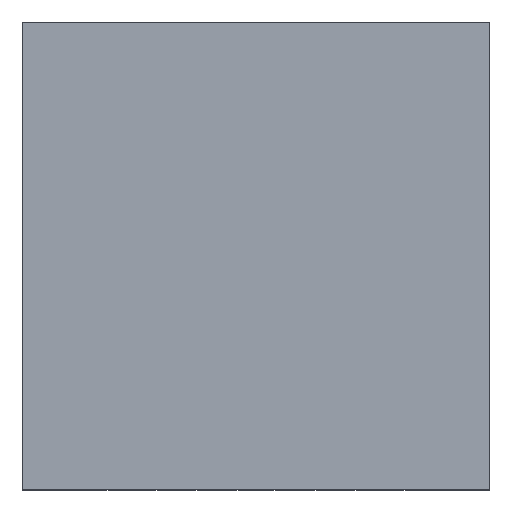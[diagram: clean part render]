
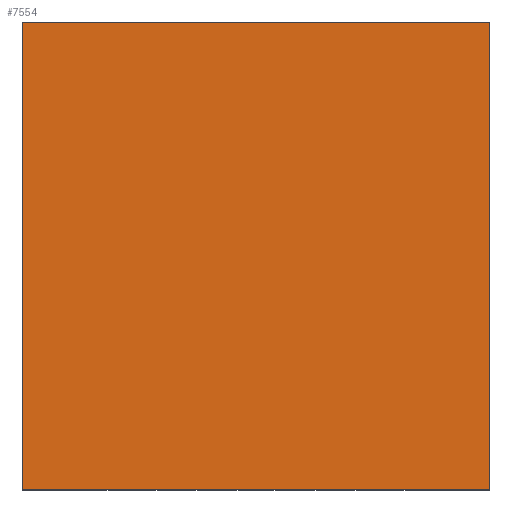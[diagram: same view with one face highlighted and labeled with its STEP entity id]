
A CAD part, top view. The second image highlights one B-rep face of the part: STEP entity #7554.
In plain terms, the highlighted planar face has unit normal (0, 0, 1).
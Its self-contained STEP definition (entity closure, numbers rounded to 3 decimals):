
#16 = CARTESIAN_POINT ( 'NONE',  ( 1.655, 0.048, 3.749 ) ) ;
#29 = DIRECTION ( 'NONE',  ( 0., 1., 0. ) ) ;
#113 = FACE_OUTER_BOUND ( 'NONE', #7426, .T. ) ;
#174 = VECTOR ( 'NONE', #29, 1000. ) ;
#816 = LINE ( 'NONE', #7795, #174 ) ;
#850 = CARTESIAN_POINT ( 'NONE',  ( 3.634, 4.048, 3.749 ) ) ;
#1232 = VERTEX_POINT ( 'NONE', #8860 ) ;
#1491 = DIRECTION ( 'NONE',  ( 1., 0., 0. ) ) ;
#1691 = EDGE_CURVE ( 'Defeatured_0_12+Defeatured_0_10+Defeatured_0_9+Defeatured_0_11', #1232, #7212, #8469, .T. ) ;
#1708 = LINE ( 'NONE', #4686, #2043 ) ;
#1923 = VECTOR ( 'NONE', #1491, 1000. ) ;
#2043 = VECTOR ( 'NONE', #5333, 1000. ) ;
#2949 = PLANE ( 'NONE',  #9069 ) ;
#3138 = DIRECTION ( 'NONE',  ( 0., -1., 0. ) ) ;
#3186 = LINE ( 'NONE', #7377, #3749 ) ;
#3317 = DIRECTION ( 'NONE',  ( 0., 0., 1. ) ) ;
#3333 = ORIENTED_EDGE ( 'NONE', *, *, #1691, .T. ) ;
#3749 = VECTOR ( 'NONE', #3138, 1000. ) ;
#3863 = ORIENTED_EDGE ( 'NONE', *, *, #8297, .T. ) ;
#4110 = ORIENTED_EDGE ( 'NONE', *, *, #8464, .T. ) ;
#4686 = CARTESIAN_POINT ( 'NONE',  ( 1.655, 4.048, 3.749 ) ) ;
#4749 = VERTEX_POINT ( 'NONE', #9110 ) ;
#5311 = CARTESIAN_POINT ( 'NONE',  ( 1.655, 2.073, 3.749 ) ) ;
#5333 = DIRECTION ( 'NONE',  ( -1., 0., 0. ) ) ;
#5950 = EDGE_CURVE ( 'Defeatured_0_12+Defeatured_0_8+Defeatured_0_11+Defeatured_0_9', #7797, #4749, #1708, .T. ) ;
#6221 = CARTESIAN_POINT ( 'NONE',  ( 3.634, 0.048, 3.749 ) ) ;
#6675 = ORIENTED_EDGE ( 'NONE', *, *, #5950, .T. ) ;
#7212 = VERTEX_POINT ( 'NONE', #6221 ) ;
#7377 = CARTESIAN_POINT ( 'NONE',  ( -0.366, 2.073, 3.749 ) ) ;
#7426 = EDGE_LOOP ( 'NONE', ( #6675, #4110, #3333, #3863 ) ) ;
#7503 = DIRECTION ( 'NONE',  ( 1., 0., 0. ) ) ;
#7554 = ADVANCED_FACE ( 'Defeatured_0_12', ( #113 ), #2949, .T. ) ;
#7795 = CARTESIAN_POINT ( 'NONE',  ( 3.634, 2.073, 3.749 ) ) ;
#7797 = VERTEX_POINT ( 'NONE', #850 ) ;
#8297 = EDGE_CURVE ( 'Defeatured_0_12+Defeatured_0_11+Defeatured_0_10+Defeatured_0_8', #7212, #7797, #816, .T. ) ;
#8464 = EDGE_CURVE ( 'Defeatured_0_12+Defeatured_0_9+Defeatured_0_8+Defeatured_0_10', #4749, #1232, #3186, .T. ) ;
#8469 = LINE ( 'NONE', #16, #1923 ) ;
#8860 = CARTESIAN_POINT ( 'NONE',  ( -0.366, 0.048, 3.749 ) ) ;
#9069 = AXIS2_PLACEMENT_3D ( 'NONE', #5311, #3317, #7503 ) ;
#9110 = CARTESIAN_POINT ( 'NONE',  ( -0.366, 4.048, 3.749 ) ) ;
